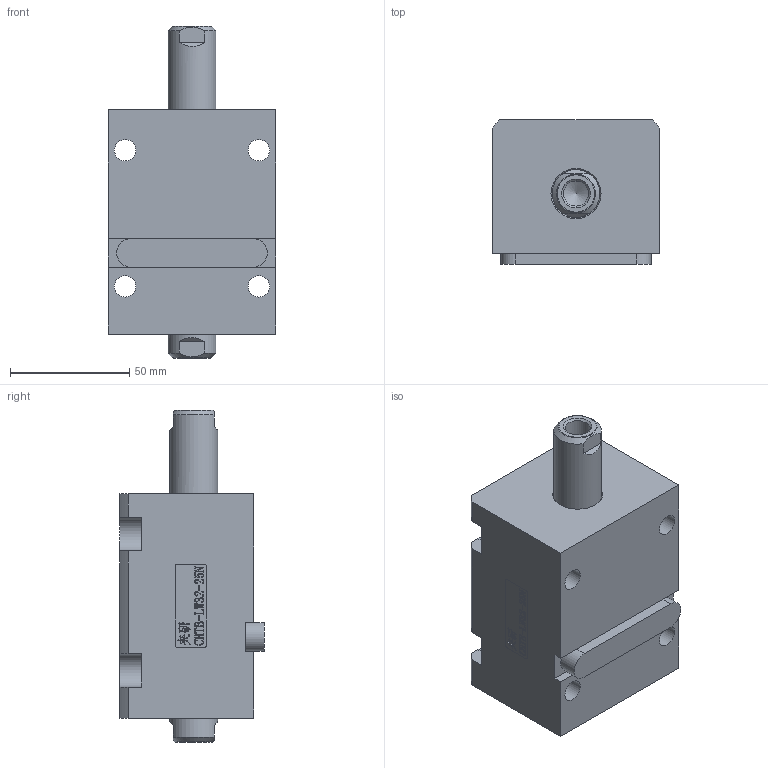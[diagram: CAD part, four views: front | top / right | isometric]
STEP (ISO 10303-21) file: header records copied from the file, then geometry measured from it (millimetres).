
FILE_DESCRIPTION(/* description */ (''),/* implementation_level */ '2;1');
FILE_NAME(/* name */ 'CHTB-LW32-25N.stp',/* time_stamp */ '2022-04-29T16:13:21+08:00',/* author */ (''),/* organization */ (''),/* preprocessor_version */ 'ST-DEVELOPER v16.7',/* originating_system */ 'SIEMENS PLM Software NX 12.0',/* authorisation */ '');
FILE_SCHEMA (('AUTOMOTIVE_DESIGN { 1 0 10303 214 3 1 1 1 }'));
Length unit declared in the file: millimetre
Products named in the file (1): CHTB-LW32-25N
Bounding box: 70 x 60.5 x 139 mm (x, y, z)
Volume: 344077.2 mm3; surface area: 68734.6 mm2
Topology: 3 solids, 3 shells, 459 faces, 1276 edges, 860 vertices
Faces by surface type: plane 295, extrusion 82, cylinder 44, cone 14, torus 14, bspline 10
Full cylindrical faces by diameter (mm): 3 x2, 4 x2, 9 x4, 10.5 x2, 10.7 x2, 20 x4, 24.5 x1, 26 x2, 28 x1, 32 x5, 40 x1
Entity records: 21813 total; most frequent: CARTESIAN_POINT 8487, ORIENTED_EDGE 2414, DIRECTION 1875, EDGE_CURVE 1207, VECTOR 919, VERTEX_POINT 847, LINE 837, EDGE_LOOP 564
